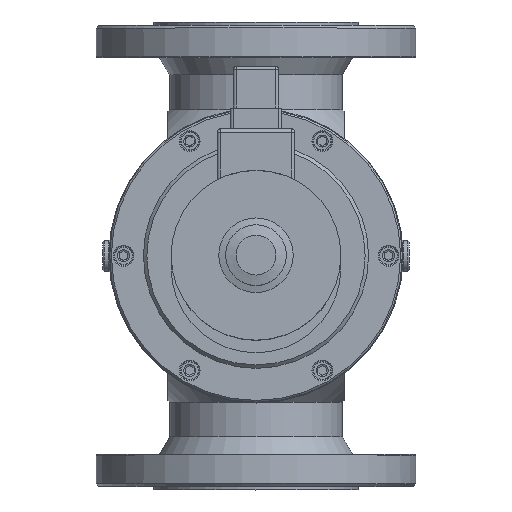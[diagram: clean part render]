
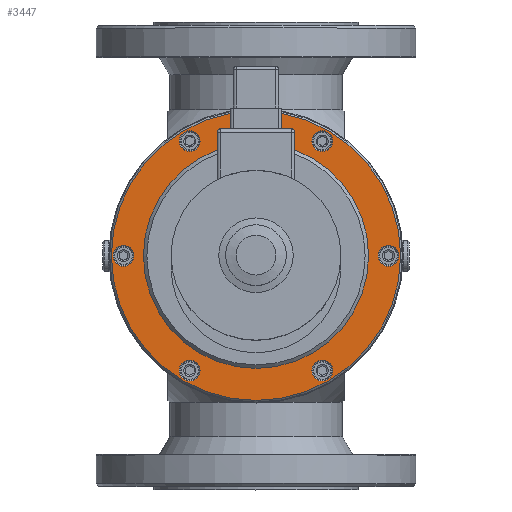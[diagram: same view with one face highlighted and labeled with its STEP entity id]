
A CAD part, top view. The second image highlights one B-rep face of the part: STEP entity #3447.
In plain terms, the highlighted planar face has unit normal (0, 0, 1).
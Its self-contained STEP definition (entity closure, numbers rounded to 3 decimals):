
#3447 = ADVANCED_FACE( '', ( #5115, #5116, #5117, #5118, #5119, #5120, #5121, #5122 ), #5123, .F. );
#5115 = FACE_BOUND( '', #7674, .T. );
#5116 = FACE_BOUND( '', #7675, .T. );
#5117 = FACE_BOUND( '', #7676, .T. );
#5118 = FACE_BOUND( '', #7677, .T. );
#5119 = FACE_BOUND( '', #7678, .T. );
#5120 = FACE_BOUND( '', #7679, .T. );
#5121 = FACE_OUTER_BOUND( '', #7680, .T. );
#5122 = FACE_BOUND( '', #7681, .T. );
#5123 = PLANE( '', #7682 );
#7674 = EDGE_LOOP( '', ( #12715 ) );
#7675 = EDGE_LOOP( '', ( #12716 ) );
#7676 = EDGE_LOOP( '', ( #12717 ) );
#7677 = EDGE_LOOP( '', ( #12718 ) );
#7678 = EDGE_LOOP( '', ( #12719 ) );
#7679 = EDGE_LOOP( '', ( #12720 ) );
#7680 = EDGE_LOOP( '', ( #12721 ) );
#7681 = EDGE_LOOP( '', ( #12722 ) );
#7682 = AXIS2_PLACEMENT_3D( '', #12723, #12724, #12725 );
#12715 = ORIENTED_EDGE( '', *, *, #16872, .T. );
#12716 = ORIENTED_EDGE( '', *, *, #16873, .T. );
#12717 = ORIENTED_EDGE( '', *, *, #16874, .T. );
#12718 = ORIENTED_EDGE( '', *, *, #16875, .T. );
#12719 = ORIENTED_EDGE( '', *, *, #16876, .T. );
#12720 = ORIENTED_EDGE( '', *, *, #16877, .T. );
#12721 = ORIENTED_EDGE( '', *, *, #16870, .T. );
#12722 = ORIENTED_EDGE( '', *, *, #16871, .T. );
#12723 = CARTESIAN_POINT( '', ( 0., 0., 11. ) );
#12724 = DIRECTION( '', ( 0., 0., -1. ) );
#12725 = DIRECTION( '', ( -1., 0., 0. ) );
#16870 = EDGE_CURVE( '', #18855, #18855, #18856, .F. );
#16871 = EDGE_CURVE( '', #18857, #18857, #18858, .T. );
#16872 = EDGE_CURVE( '', #18859, #18859, #18860, .T. );
#16873 = EDGE_CURVE( '', #18861, #18861, #18862, .T. );
#16874 = EDGE_CURVE( '', #18863, #18863, #18864, .T. );
#16875 = EDGE_CURVE( '', #18865, #18865, #18866, .T. );
#16876 = EDGE_CURVE( '', #18867, #18867, #18868, .T. );
#16877 = EDGE_CURVE( '', #18869, #18869, #18870, .T. );
#18855 = VERTEX_POINT( '', #22671 );
#18856 = CIRCLE( '', #22672, 83.5 );
#18857 = VERTEX_POINT( '', #22673 );
#18858 = CIRCLE( '', #22674, 65. );
#18859 = VERTEX_POINT( '', #22675 );
#18860 = CIRCLE( '', #22676, 6. );
#18861 = VERTEX_POINT( '', #22677 );
#18862 = CIRCLE( '', #22678, 6. );
#18863 = VERTEX_POINT( '', #22679 );
#18864 = CIRCLE( '', #22680, 6. );
#18865 = VERTEX_POINT( '', #22681 );
#18866 = CIRCLE( '', #22682, 6. );
#18867 = VERTEX_POINT( '', #22683 );
#18868 = CIRCLE( '', #22684, 6. );
#18869 = VERTEX_POINT( '', #22685 );
#18870 = CIRCLE( '', #22686, 6. );
#22671 = CARTESIAN_POINT( '', ( -83.5, 0., 11. ) );
#22672 = AXIS2_PLACEMENT_3D( '', #27016, #27017, #27018 );
#22673 = CARTESIAN_POINT( '', ( 0., 65., 11. ) );
#22674 = AXIS2_PLACEMENT_3D( '', #27019, #27020, #27021 );
#22675 = CARTESIAN_POINT( '', ( -44.25, -66.251, 11. ) );
#22676 = AXIS2_PLACEMENT_3D( '', #27022, #27023, #27024 );
#22677 = CARTESIAN_POINT( '', ( 32.25, -66.251, 11. ) );
#22678 = AXIS2_PLACEMENT_3D( '', #27025, #27026, #27027 );
#22679 = CARTESIAN_POINT( '', ( 70.5, 0., 11. ) );
#22680 = AXIS2_PLACEMENT_3D( '', #27028, #27029, #27030 );
#22681 = CARTESIAN_POINT( '', ( 32.25, 66.251, 11. ) );
#22682 = AXIS2_PLACEMENT_3D( '', #27031, #27032, #27033 );
#22683 = CARTESIAN_POINT( '', ( -44.25, 66.251, 11. ) );
#22684 = AXIS2_PLACEMENT_3D( '', #27034, #27035, #27036 );
#22685 = CARTESIAN_POINT( '', ( -82.5, 0., 11. ) );
#22686 = AXIS2_PLACEMENT_3D( '', #27037, #27038, #27039 );
#27016 = CARTESIAN_POINT( '', ( 0., 0., 11. ) );
#27017 = DIRECTION( '', ( 0., 0., -1. ) );
#27018 = DIRECTION( '', ( -1., 0., 0. ) );
#27019 = CARTESIAN_POINT( '', ( 0., 0., 11. ) );
#27020 = DIRECTION( '', ( 0., 0., -1. ) );
#27021 = DIRECTION( '', ( 0., 1., 0. ) );
#27022 = CARTESIAN_POINT( '', ( -38.25, -66.251, 11. ) );
#27023 = DIRECTION( '', ( 0., 0., -1. ) );
#27024 = DIRECTION( '', ( -1., 0., 0. ) );
#27025 = CARTESIAN_POINT( '', ( 38.25, -66.251, 11. ) );
#27026 = DIRECTION( '', ( 0., 0., -1. ) );
#27027 = DIRECTION( '', ( -1., 0., 0. ) );
#27028 = CARTESIAN_POINT( '', ( 76.5, 0., 11. ) );
#27029 = DIRECTION( '', ( 0., 0., -1. ) );
#27030 = DIRECTION( '', ( -1., 0., 0. ) );
#27031 = CARTESIAN_POINT( '', ( 38.25, 66.251, 11. ) );
#27032 = DIRECTION( '', ( 0., 0., -1. ) );
#27033 = DIRECTION( '', ( -1., 0., 0. ) );
#27034 = CARTESIAN_POINT( '', ( -38.25, 66.251, 11. ) );
#27035 = DIRECTION( '', ( 0., 0., -1. ) );
#27036 = DIRECTION( '', ( -1., 0., 0. ) );
#27037 = CARTESIAN_POINT( '', ( -76.5, 0., 11. ) );
#27038 = DIRECTION( '', ( 0., 0., -1. ) );
#27039 = DIRECTION( '', ( -1., 0., 0. ) );
